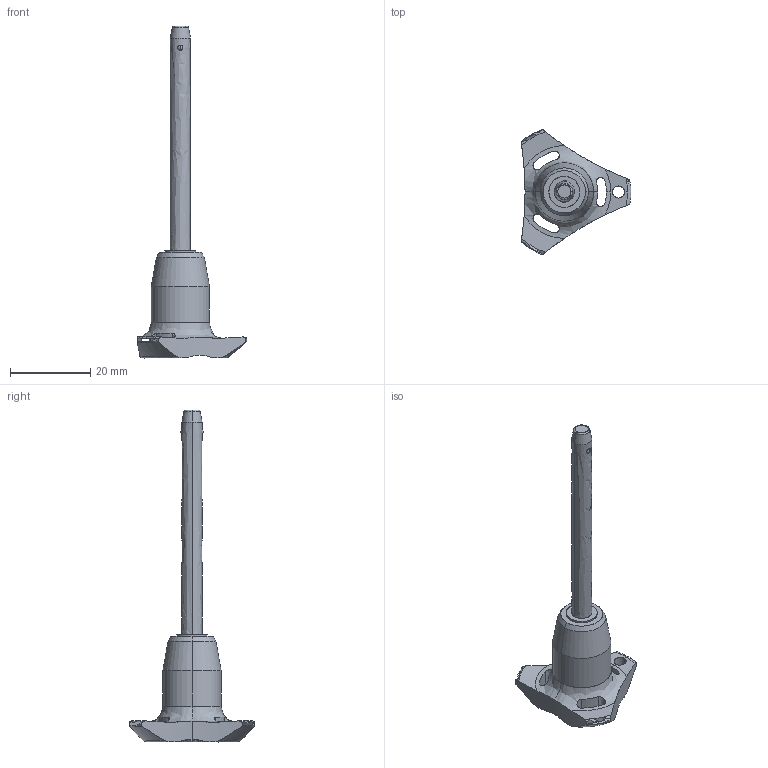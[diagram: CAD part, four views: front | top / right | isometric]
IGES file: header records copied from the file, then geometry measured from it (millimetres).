
Start section: SolidWorks IGES file using analytic representation for surfaces
Global section: file name: C:\Users\ianosborn\Desktop\QR1714_v2\QR1714_v2_20251112_IGES\QR1714.M05-050-S.igs; native system: SolidWorks 2019; preprocessor: SolidWorks 2019; author: IanOsborn; date: 251112.095616; units: millimetre
Bounding box: 27.4 x 31.31 x 82.7 mm (x, y, z)
Surface area: 3293.8 mm2 (no closed solid volume)
Topology: 0 solids, 0 shells, 66 faces, 1227 edges, 1208 vertices
Faces by surface type: revolution 50, bspline 16
